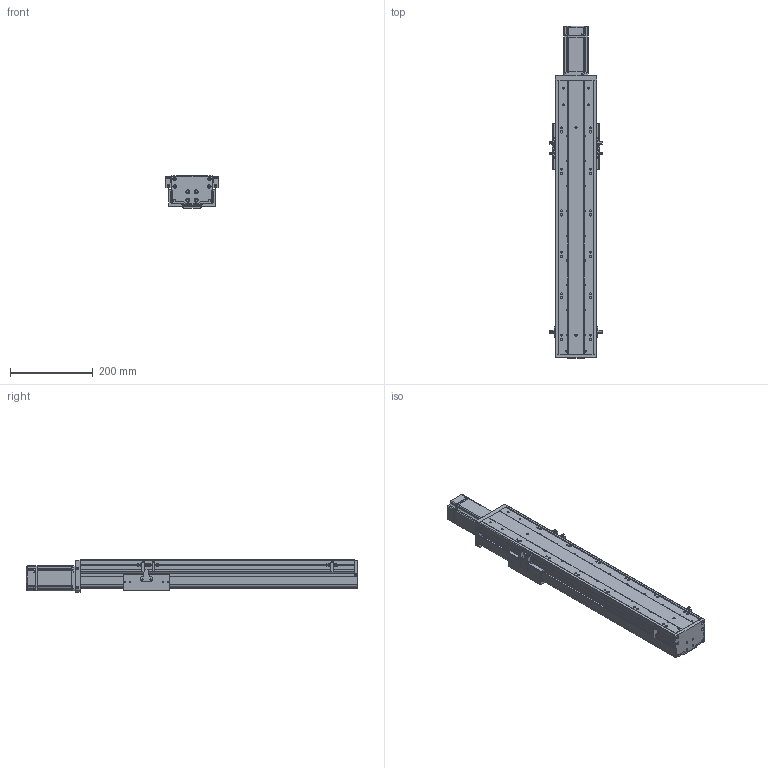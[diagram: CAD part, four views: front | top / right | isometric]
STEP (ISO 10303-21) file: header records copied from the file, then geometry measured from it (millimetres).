
FILE_DESCRIPTION (( 'STEP AP203' ), '1' );
FILE_NAME ('RY100FBS-L1610-300-MK(15双轨）.SLDASM_400.step', '2021-02-22T08:44:12', ( '盈信电脑' ), ( '东莞市道滘镇水果街19号' ), 'SwSTEP 2.0', 'SolidWorks 2012', '' );
FILE_SCHEMA (( 'CONFIG_CONTROL_DESIGN' ));
Length unit declared in the file: millimetre
Products named in the file (12): RY100FBS-L1610-300-MK(15双轨）.SLDASM_400; RY100FB-遵嫖萇覜茼え; 侂狟400W侜督萇儂; 15; 覜茼ん672; RY100FBS-铝滑块（16丝杆）; RY100FBS-300-上盖板(15双轨）_400; RY100FBS-前盖板(15双轨）; RY100FBS-后盖板(15双轨）; RY100FBS-300型材底座(15双轨）_400; 滅袉蝶18-24; 滅袉蝶18-15
Assembly tree (18 placements, depth 3):
  RY100FBS-L1610-300-MK(15双轨）.SLDASM_400
    RY100FBS-300型材底座(15双轨）_400
    滅袉蝶18-24  x2
    滅袉蝶18-15
    RY100FBS-铝滑块（16丝杆）
    RY100FBS-300-上盖板(15双轨）_400
    RY100FBS-前盖板(15双轨）
    RY100FBS-后盖板(15双轨）
    侂狟400W侜督萇儂
      15
    RY100FB-遵嫖萇覜茼え  x2
    覜茼ん672  x6
Bounding box: 127.4 x 800.5 x 78.75 mm (x, y, z)
Volume: 2014422.3 mm3; surface area: 678282.8 mm2
Topology: 17 solids, 17 shells, 1745 faces, 4939 edges, 3236 vertices
Faces by surface type: plane 865, cylinder 748, cone 114, bspline 18
Entity records: 45592 total; most frequent: CARTESIAN_POINT 9541, DIRECTION 7342, ORIENTED_EDGE 7222, EDGE_CURVE 3611, AXIS2_PLACEMENT_3D 2643, VERTEX_POINT 2384, LINE 2056, VECTOR 2056
